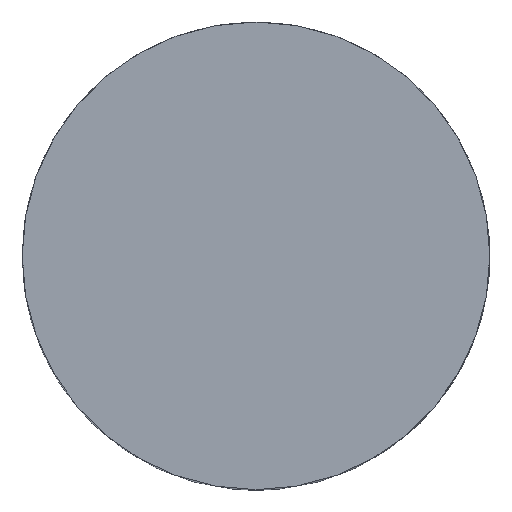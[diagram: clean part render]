
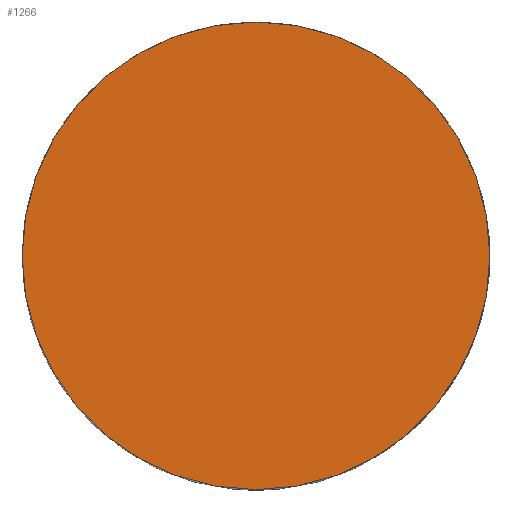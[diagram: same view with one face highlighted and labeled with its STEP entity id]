
A CAD part, top view. The second image highlights one B-rep face of the part: STEP entity #1266.
In plain terms, the highlighted planar face has unit normal (0, 0, 1).
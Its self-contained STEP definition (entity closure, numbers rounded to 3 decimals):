
#73 = CYLINDRICAL_SURFACE('',#74,12.);
#74 = AXIS2_PLACEMENT_3D('',#75,#76,#77);
#75 = CARTESIAN_POINT('',(0.,0.,27.));
#76 = DIRECTION('',(0.,0.,1.));
#77 = DIRECTION('',(-1.,0.,0.));
#164 = EDGE_CURVE('',#165,#165,#167,.T.);
#165 = VERTEX_POINT('',#166);
#166 = CARTESIAN_POINT('',(-12.,0.,18.019));
#167 = SURFACE_CURVE('',#168,(#173,#180),.PCURVE_S1.);
#168 = CIRCLE('',#169,12.);
#169 = AXIS2_PLACEMENT_3D('',#170,#171,#172);
#170 = CARTESIAN_POINT('',(0.,0.,18.019));
#171 = DIRECTION('',(0.,0.,-1.));
#172 = DIRECTION('',(-1.,0.,0.));
#173 = PCURVE('',#73,#174);
#174 = DEFINITIONAL_REPRESENTATION('',(#175),#179);
#175 = LINE('',#176,#177);
#176 = CARTESIAN_POINT('',(6.283,-8.981));
#177 = VECTOR('',#178,1.);
#178 = DIRECTION('',(-1.,0.));
#179 = ( GEOMETRIC_REPRESENTATION_CONTEXT(2) 
PARAMETRIC_REPRESENTATION_CONTEXT() REPRESENTATION_CONTEXT('2D SPACE',''
  ) );
#180 = PCURVE('',#181,#186);
#181 = PLANE('',#182);
#182 = AXIS2_PLACEMENT_3D('',#183,#184,#185);
#183 = CARTESIAN_POINT('',(0.,0.,
    18.019));
#184 = DIRECTION('',(0.,0.,-1.));
#185 = DIRECTION('',(0.,-1.,0.));
#186 = DEFINITIONAL_REPRESENTATION('',(#187),#191);
#187 = CIRCLE('',#188,12.);
#188 = AXIS2_PLACEMENT_2D('',#189,#190);
#189 = CARTESIAN_POINT('',(0.,0.));
#190 = DIRECTION('',(0.,1.));
#191 = ( GEOMETRIC_REPRESENTATION_CONTEXT(2) 
PARAMETRIC_REPRESENTATION_CONTEXT() REPRESENTATION_CONTEXT('2D SPACE',''
  ) );
#1266 = ADVANCED_FACE('',(#1267),#181,.F.);
#1267 = FACE_BOUND('',#1268,.F.);
#1268 = EDGE_LOOP('',(#1269));
#1269 = ORIENTED_EDGE('',*,*,#164,.T.);
